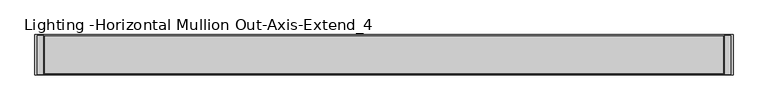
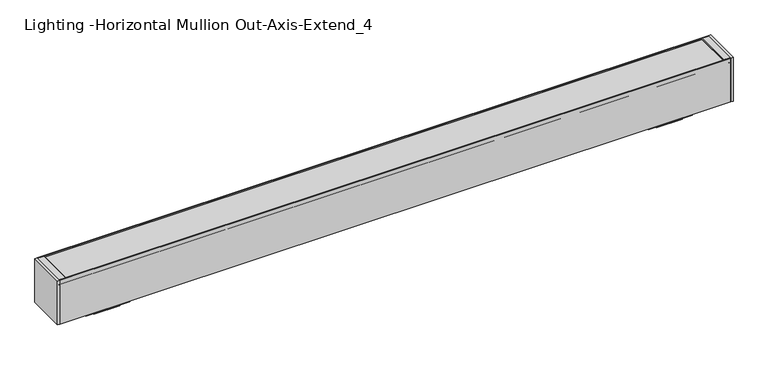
"""IFC4 building model written with IfcOpenShell, lengths in millimetres: light fixture geometry, Lighting -Horizontal Mullion Out-Axis-Extend_4 : EX4WD-900-80-35-SO-4."""

from ifc_helpers import new_model, si_unit, point, frame, frame_2d, origin, place, context, project, spatial, polyline, circle_curve, trimmed, segment, composite_curve, outline, extrude, faceted_brep, source, transform, mapped, element, save


def lighting_horizontal_mullion_out_axis_extend_4_b6a250f9(model_context):
    return source(origin(), model_context, "Body", "SolidModel", [
        extrude(outline(polyline([(155.4257861, -1210.2764833), (156.5275, -1211.201027), (156.5275, -1228.5898833), (151.9432981, -1228.5898833), (151.9432981, -1217.9218833), (154.7495, -1217.9218833), (154.7495, -1211.0702333), (153.95575, -1211.0702333), (153.95575, -1210.2764833), (155.4257861, -1210.2764833)])), frame((0.0, -9.08177, 0.0), z_axis=(0.0, 1.0, 0.0), x_axis=(0.0, 0.0, 1.0)), (0.0, 0.0, 1.0), 101.50602),
        extrude(outline(polyline([(-1228.5898833, 94.45625), (-1228.5898833, -11.11377), (-1234.9398833, -11.11377), (-1234.9398833, 94.45625), (-1228.5898833, 94.45625)])), frame((0.0, 0.0, 31.75), z_axis=(0.0, 0.0, 1.0), x_axis=(1.0, 0.0, 0.0)), (0.0, 0.0, 1.0), 124.7775),
        faceted_brep([(-1023.1902433, 66.8463453, 31.75), (-1023.1902433, 18.0836347, 31.75), (-1023.1902433, 18.0836347, 6.35), (-1023.1902433, 66.8463453, 6.35), (-1141.8895233, 66.8463453, 31.75), (-1141.8895233, 66.8463453, 6.35), (-1141.8895233, 18.0836347, 6.35), (-1141.8895233, 18.0836347, 31.75), (-1117.6740423, 61.46419, 0.0), (-1117.6740423, 61.46419, 6.35), (-1047.4057242, 61.46419, 6.35), (-1047.4057242, 61.46419, 0.0), (-1117.6740423, 23.46579, 0.0), (-1047.4057242, 23.46579, 0.0), (-1117.6740423, 23.46579, 6.35), (-1047.4057242, 23.46579, 6.35)], [[[0, 1, 2, 3]], [[4, 5, 6, 7]], [[8, 9, 10, 11]], [[12, 8, 11, 13]], [[14, 12, 13, 15]], [[1, 0, 4, 7]], [[0, 3, 5, 4]], [[6, 5, 3, 2], [14, 15, 10, 9]], [[6, 2, 1, 7]], [[14, 9, 8, 12]], [[10, 15, 13, 11]]]),
        faceted_brep([(495.6011614, 66.8463453, 31.75), (495.6011614, 18.0836347, 31.75), (495.6011614, 18.0836347, 6.35), (495.6011614, 66.8463453, 6.35), (376.9018814, 66.8463453, 31.75), (376.9018814, 66.8463453, 6.35), (376.9018814, 18.0836347, 6.35), (376.9018814, 18.0836347, 31.75), (401.1173623, 61.46419, 0.0), (401.1173623, 61.46419, 6.35), (471.3856804, 61.46419, 6.35), (471.3856804, 61.46419, 0.0), (401.1173623, 23.46579, 0.0), (471.3856804, 23.46579, 0.0), (401.1173623, 23.46579, 6.35), (471.3856804, 23.46579, 6.35)], [[[0, 1, 2, 3]], [[4, 5, 6, 7]], [[8, 9, 10, 11]], [[12, 8, 11, 13]], [[14, 12, 13, 15]], [[1, 0, 4, 7]], [[0, 3, 5, 4]], [[6, 5, 3, 2], [14, 15, 10, 9]], [[6, 2, 1, 7]], [[14, 9, 8, 12]], [[10, 15, 13, 11]]]),
        extrude(outline(polyline([(155.4257861, 563.9881214), (153.95575, 563.9881214), (153.95575, 564.7818714), (154.7495, 564.7818714), (154.7495, 571.6335214), (151.9432981, 571.6335214), (151.9432981, 582.3015214), (156.5275, 582.3015214), (156.5275, 564.9126651), (155.4257861, 563.9881214)])), frame((0.0, -9.08177, 0.0), z_axis=(0.0, 1.0, 0.0), x_axis=(0.0, 0.0, 1.0)), (0.0, 0.0, 1.0), 101.50602),
        extrude(outline(polyline([(582.3015214, -11.11377), (582.3015214, 94.45625), (588.6515214, 94.45625), (588.6515214, -11.11377), (582.3015214, -11.11377)])), frame((0.0, 0.0, 31.75), z_axis=(0.0, 0.0, 1.0), x_axis=(1.0, 0.0, 0.0)), (0.0, 0.0, 1.0), 124.7775),
        extrude(outline(composite_curve([segment(polyline([(87.4187262, 151.7954791), (-2.4887462, 151.7954791), (-2.8274381, 145.3328537)]), True, "CONTINUOUS"), segment(trimmed(circle_curve(frame_2d((-5.57022, 142.33398)), 4.064), [point((-2.8274381, 145.3328537))], [point((-3.6979014, 138.7269703))], False, "CARTESIAN"), True, "CONTINUOUS"), segment(trimmed(circle_curve(frame_2d((-0.465364, 139.5158257)), 3.3274001), [point((-3.6979014, 138.7269703))], [point((-2.8826156, 137.2292375))], True, "CARTESIAN"), True, "CONTINUOUS"), segment(trimmed(circle_curve(frame_2d((4.5536623, 144.2635508)), 10.2362001), [point((-2.8826156, 137.2292375))], [point((-1.5279266, 136.0298355))], True, "CARTESIAN"), True, "CONTINUOUS"), segment(trimmed(circle_curve(frame_2d((-2.0183773, 135.3658262)), 0.8255), [point((-1.5279266, 136.0298355))], [point((-2.508828, 134.7018169))], False, "CARTESIAN"), True, "CONTINUOUS"), segment(trimmed(circle_curve(frame_2d((4.5536631, 144.2635517)), 11.8872013), [point((-2.508828, 134.7018169))], [point((-4.0820152, 136.0946708))], False, "CARTESIAN"), True, "CONTINUOUS"), segment(trimmed(circle_curve(frame_2d((-0.465364, 139.5158257)), 4.9784001), [point((-4.0820152, 136.0946708))], [point((-5.4269007, 139.92524))], False, "CARTESIAN"), True, "CONTINUOUS"), segment(trimmed(circle_curve(frame_2d((-5.57022, 142.33398)), 2.413), [point((-5.4269007, 139.92524))], [point((-3.7914141, 143.9644458))], True, "CARTESIAN"), True, "CONTINUOUS"), segment(trimmed(circle_curve(frame_2d((-1.9189869, 145.6807256)), 2.54), [point((-3.7914141, 143.9644458))], [point((-4.4555059, 145.8136589))], False, "CARTESIAN"), True, "CONTINUOUS"), segment(polyline([(-4.4555059, 145.8136589), (-4.142012, 151.7954791), (-7.14502, 151.7954791), (-7.14502, 153.70048), (92.075, 153.70048), (92.075, 151.7954791), (89.071992, 151.7954791), (89.3854859, 145.8136589)]), True, "CONTINUOUS"), segment(trimmed(circle_curve(frame_2d((86.8489669, 145.6807256)), 2.54), [point((89.3854859, 145.8136589))], [point((88.7213941, 143.9644458))], False, "CARTESIAN"), True, "CONTINUOUS"), segment(trimmed(circle_curve(frame_2d((90.5002, 142.33398)), 2.413), [point((88.7213941, 143.9644458))], [point((90.3568807, 139.92524))], True, "CARTESIAN"), True, "CONTINUOUS"), segment(trimmed(circle_curve(frame_2d((85.395344, 139.5158257)), 4.9784001), [point((90.3568807, 139.92524))], [point((89.0119952, 136.0946708))], False, "CARTESIAN"), True, "CONTINUOUS"), segment(trimmed(circle_curve(frame_2d((80.3763169, 144.2635517)), 11.8872013), [point((89.0119952, 136.0946708))], [point((87.438808, 134.7018169))], False, "CARTESIAN"), True, "CONTINUOUS"), segment(trimmed(circle_curve(frame_2d((86.9483573, 135.3658262)), 0.8255), [point((87.438808, 134.7018169))], [point((86.4579066, 136.0298355))], False, "CARTESIAN"), True, "CONTINUOUS"), segment(trimmed(circle_curve(frame_2d((80.3763177, 144.2635508)), 10.2362001), [point((86.4579066, 136.0298355))], [point((87.8125956, 137.2292375))], True, "CARTESIAN"), True, "CONTINUOUS"), segment(trimmed(circle_curve(frame_2d((85.395344, 139.5158257)), 3.3274001), [point((87.8125956, 137.2292375))], [point((88.6278814, 138.7269703))], True, "CARTESIAN"), True, "CONTINUOUS"), segment(trimmed(circle_curve(frame_2d((90.5002, 142.33398)), 4.064), [point((88.6278814, 138.7269703))], [point((87.7574181, 145.3328537))], False, "CARTESIAN"), True, "CONTINUOUS"), segment(polyline([(87.7574181, 145.3328537), (87.4187262, 151.7954791)]), True, "CONTINUOUS")], self_intersect=False)), frame((-1213.6038833, 0.0, 0.0), z_axis=(1.0, 0.0, 0.0), x_axis=(0.0, 1.0, 0.0)), (0.0, 0.0, 1.0), 1780.9194046),
        extrude(outline(composite_curve([segment(polyline([(92.42425, 141.6177), (90.5848297, 141.6177)]), True, "CONTINUOUS"), segment(trimmed(circle_curve(frame_2d((89.0784797, 141.6177)), 1.5063501), [point((90.5848297, 141.6177))], [point((88.3253046, 140.3131626))], False, "CARTESIAN"), True, "CONTINUOUS"), segment(trimmed(circle_curve(frame_2d((89.5164621, 142.3763079)), 2.382315), [point((88.3253046, 140.3131626))], [point((87.1419016, 142.5683682))], False, "CARTESIAN"), True, "CONTINUOUS"), segment(polyline([(87.1419016, 142.5683682), (90.51925, 145.4023), (90.51925, 143.6497), (92.42425, 143.6497), (92.42425, 150.1775), (90.51925, 150.1775), (90.51925, 148.6535), (88.86825, 148.7400252), (88.86825, 151.4475), (92.42425, 151.4475), (92.42425, 156.5275), (94.45625, 156.5275), (94.45625, 31.75), (-11.11377, 31.75), (-11.11377, 156.5275), (-9.08177, 156.5275), (-9.08177, 151.4475), (-5.52577, 151.4475), (-5.52577, 148.7400252), (-7.17677, 148.6535), (-7.17677, 150.1775), (-9.08177, 150.1775), (-9.08177, 143.6497), (-7.17677, 143.6497), (-7.17677, 145.4023), (-3.7994216, 142.5683682)]), True, "CONTINUOUS"), segment(trimmed(circle_curve(frame_2d((-6.1739821, 142.3763079)), 2.382315), [point((-3.7994216, 142.5683682))], [point((-4.9828246, 140.3131626))], False, "CARTESIAN"), True, "CONTINUOUS"), segment(trimmed(circle_curve(frame_2d((-5.7359997, 141.6177)), 1.5063501), [point((-4.9828246, 140.3131626))], [point((-7.2423497, 141.6177))], False, "CARTESIAN"), True, "CONTINUOUS"), segment(polyline([(-7.2423497, 141.6177), (-9.08177, 141.6177), (-9.08177, 33.782), (92.42425, 33.782), (92.42425, 141.6177)]), True, "CONTINUOUS")], self_intersect=False)), frame((-1228.5898833, 0.0, 0.0), z_axis=(1.0, 0.0, 0.0), x_axis=(0.0, 1.0, 0.0)), (0.0, 0.0, 1.0), 1810.8914046),
    ])


if __name__ == "__main__":
    model = new_model("IFC4")
    model_context = context("Model", 3, world=origin())
    ifc_project = project(units=[si_unit("LENGTHUNIT", "METRE", prefix="MILLI")], contexts=[model_context])
    site = spatial("IfcSite", under=ifc_project)
    building = spatial("IfcBuilding", under=site)
    placement = place(None, origin())
    lighting_horizontal_mullion_out_axis_extend_4_shape = lighting_horizontal_mullion_out_axis_extend_4_b6a250f9(model_context)
    element("IfcLightFixture", 1, ObjectType="Lighting -Horizontal Mullion Out-Axis-Extend_4 : EX4WD-900-80-35-SO-4", at=placement, inside=building, context=model_context, shape_type="MappedRepresentation", body=[
        mapped(lighting_horizontal_mullion_out_axis_extend_4_shape, transform((0.0, 0.0, 0.0), x_axis=(1.0, 0.0, 0.0), y_axis=(0.0, 1.0, 0.0), z_axis=(0.0, 0.0, 1.0))),
    ])
    save(model, "model.ifc")
